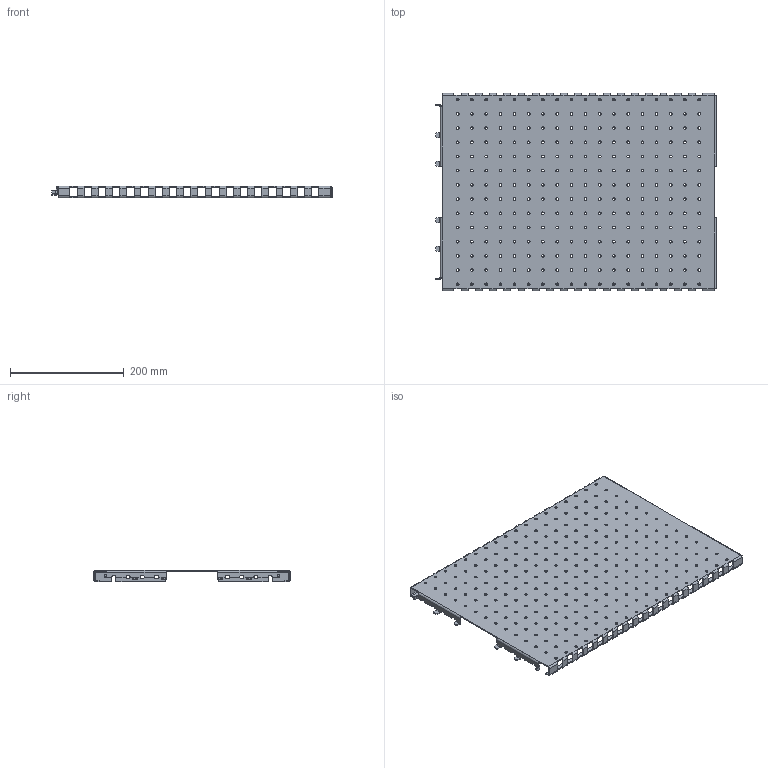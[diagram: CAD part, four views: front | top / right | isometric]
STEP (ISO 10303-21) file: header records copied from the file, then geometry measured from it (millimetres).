
FILE_DESCRIPTION(('STEP AP203'), '1');
FILE_NAME('Îãðàæäåíèå ñáîðíîé øèíû áîêîâîå ìîíòàæíîå 350õ600 ìì OptiBox M 419289 ÊÝÀÇ', '', ('UNSPECIFIED'), ('UNSPECIFIED'), 'C3D Converter', 'C3D Toolkit', '');
FILE_SCHEMA(('CONFIG_CONTROL_DESIGN'));
Length unit declared in the file: millimetre
Bounding box: 494.3 x 347 x 20 mm (x, y, z)
Volume: 366102.9 mm3; surface area: 382650.1 mm2
Topology: 1 solids, 1 shells, 782 faces, 2168 edges, 1316 vertices
Faces by surface type: cylinder 442, plane 340
Full cylindrical faces by diameter (mm): 4.6 x252, 7.3 x6
Entity records: 24738 total; most frequent: DIRECTION 4360, CARTESIAN_POINT 4009, ORIENTED_EDGE 3820, EDGE_CURVE 1910, AXIS2_PLACEMENT_3D 1667, EDGE_LOOP 1556, VERTEX_POINT 1316, FACE_BOUND 1040
